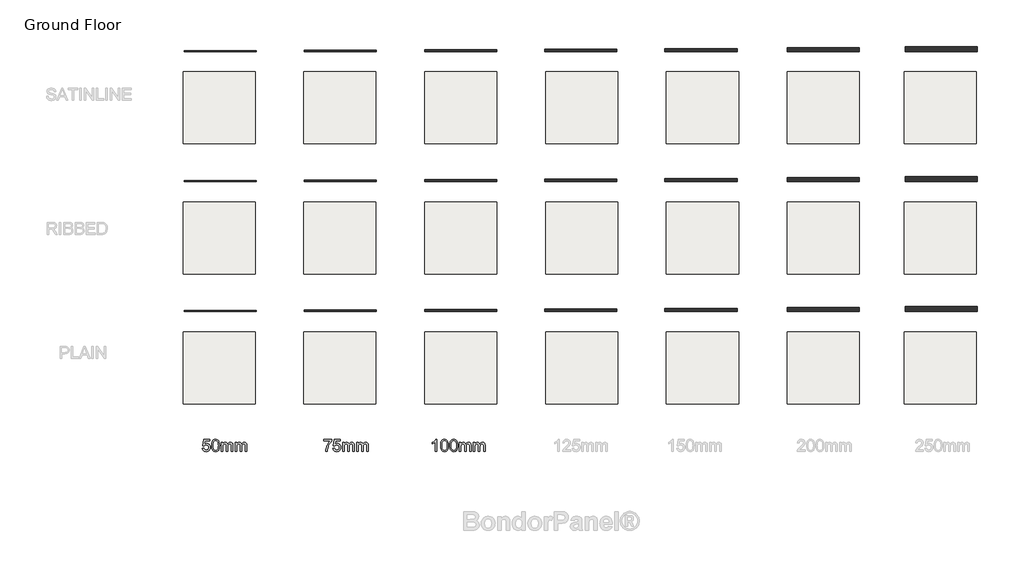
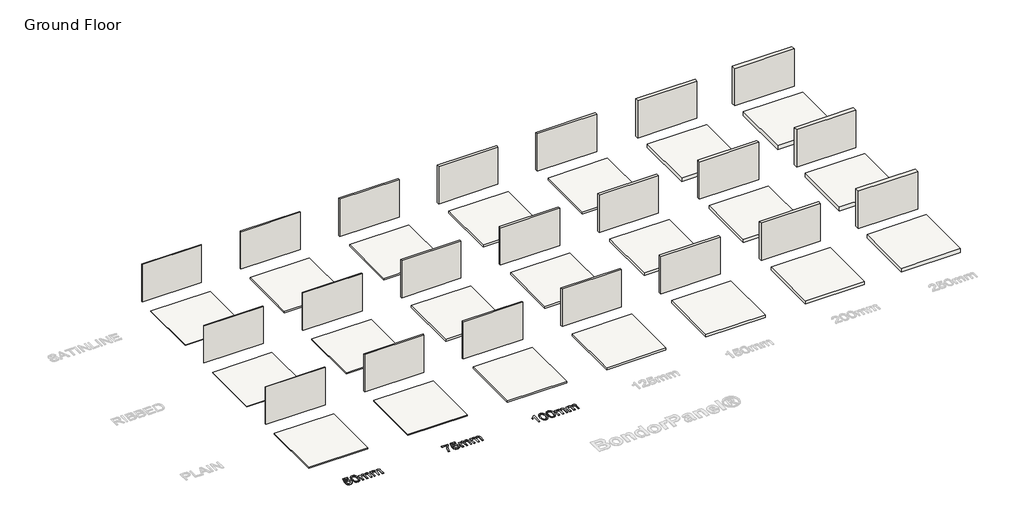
# One storey, part 1 of 3: 21 coverings, 21 walls, 3 proxies.
"""IFC4 building model written with IfcOpenShell, lengths in millimetres."""

from ifc_helpers import new_model, si_unit, origin, origin_with_axes, place, context, project, spatial, polyline, outline, extrude, element, save

model = new_model("IFC4")

# Units and contexts
model_context = context("Model", 3, world=origin())
ifc_project = project(units=[si_unit("LENGTHUNIT", "METRE", prefix="MILLI")], contexts=[model_context])

# Site, building, storey
site = spatial("IfcSite", under=ifc_project)
building = spatial("IfcBuilding", under=site)
storey = spatial("IfcBuildingStorey", under=building, Name="Ground Floor", Elevation=0.0)

# Proxies
placement = place(None, origin())
element("IfcBuildingElementProxy", 1, Name="600mm Arial", ObjectType="600mm Arial", at=placement, inside=storey, context=model_context, shape_type="SweptSolid", body=[
    extrude(outline(polyline([(-8304.9680038, -2325.4851257), (-8229.6257712, -2316.0673466), (-8223.9971767, -2340.2877775), (-8215.7934082, -2361.2984379), (-8205.0144657, -2379.099328), (-8191.6603493, -2393.6904476), (-8175.7586501, -2405.0534027), (-8157.3369592, -2413.1697993), (-8136.3952766, -2418.0396372), (-8112.9336023, -2419.6629165), (-8084.2388067, -2417.4050407), (-8058.9285255, -2410.6314135), (-8037.0027585, -2399.3420348), (-8018.461506, -2383.5369045), (-8003.718635, -2363.9977721), (-7993.1880129, -2341.5063866), (-7986.8696396, -2316.0627481), (-7984.7635152, -2287.6668566), (-7986.7362824, -2260.8298651), (-7992.654584, -2236.9727177), (-8002.51842, -2216.0954144), (-8016.3277904, -2198.1979554), (-8034.1286805, -2183.8413605), (-8055.9670754, -2173.5866499), (-8081.8429752, -2167.4338235), (-8111.75638, -2165.3828814), (-8148.3054562, -2168.6570312), (-8177.9015627, -2178.4794804), (-8201.5379809, -2193.525854), (-8220.2079921, -2212.4717768), (-8295.5502248, -2203.0539977), (-8229.6257712, -1892.2672882), (-7937.6746198, -1892.2672882), (-7937.6746198, -1967.6095208), (-8168.7045128, -1967.6095208), (-8200.9309756, -2133.597877), (-8174.3423044, -2114.5415897), (-8147.1098397, -2100.9299559), (-8119.2335815, -2092.7629756), (-8090.7135298, -2090.0406488), (-8054.0218993, -2093.4159661), (-8020.3193101, -2103.541918), (-7989.605762, -2120.4185045), (-7961.8812551, -2144.0457257), (-7938.9300172, -2172.9796446), (-7922.5362757, -2205.7763245), (-7912.7000309, -2242.4357653), (-7909.4212826, -2282.9579671), (-7912.3735356, -2321.9902468), (-7921.2302947, -2358.3001997), (-7935.9915597, -2391.8878258), (-7956.6573308, -2422.7531252), (-7987.9640886, -2454.3633857), (-8024.4947707, -2476.9421431), (-8066.2493772, -2490.4893976), (-8113.2279079, -2495.0051491), (-8152.1084363, -2492.1034798), (-8187.2273713, -2483.3984721), (-8218.5847128, -2468.890126), (-8246.180461, -2448.5784413), (-8269.140896, -2423.4750936), (-8286.5922982, -2394.5917585), (-8298.5346674, -2361.9284359), (-8304.9680038, -2325.4851257)])), origin_with_axes(), (0.0, 0.0, 1.0), 20.0),
    extrude(outline(polyline([(-7843.4968291, -2189.0744819), (-7837.9602051, -2092.5974287), (-7831.039425, -2051.6843523), (-7821.350333, -2015.6549094), (-7808.9343156, -1984.2147944), (-7793.8327597, -1957.0697016), (-7776.0456653, -1934.2196312), (-7755.5730322, -1915.6645831), (-7732.3458828, -1901.3079882), (-7706.295239, -1891.0532776), (-7677.4211009, -1884.9004512), (-7645.7234685, -1882.8495091), (-7599.2967607, -1887.7055514), (-7557.7260952, -1902.2736785), (-7522.9612467, -1925.983673), (-7496.9519896, -1958.2653181), (-7477.3070911, -1998.8427022), (-7461.6353181, -2047.4399138), (-7451.3714104, -2109.1521184), (-7447.9501079, -2189.0744819), (-7453.4315496, -2284.9997121), (-7460.2833518, -2325.7748328), (-7469.8758748, -2361.7582904), (-7482.1953231, -2393.212201), (-7497.2279011, -2420.3986805), (-7514.9736089, -2443.3177288), (-7535.4324463, -2461.9693459), (-7558.6871869, -2476.4225098), (-7584.8206042, -2486.7461983), (-7613.832698, -2492.9404114), (-7645.7234685, -2495.0051491), (-7687.2205575, -2491.4182996), (-7724.008757, -2480.6577513), (-7756.088067, -2462.723504), (-7783.4584875, -2437.6155578), (-7809.7252619, -2392.2281167), (-7828.4872437, -2335.675457), (-7839.7444327, -2267.9575787), (-7843.4968291, -2189.0744819)]), holes=[polyline([(-7768.1545965, -2188.9273291), (-7765.9473045, -2254.4241198), (-7759.3254286, -2307.4405138), (-7748.2889687, -2347.9765112), (-7732.8379249, -2376.0321118), (-7714.1495196, -2395.1205889), (-7693.400975, -2408.7552153), (-7670.5922913, -2416.9359912), (-7645.7234685, -2419.6629165), (-7620.8546456, -2416.9267941), (-7598.0459619, -2408.7184271), (-7577.2974174, -2395.0378154), (-7558.609012, -2375.884959), (-7543.1579682, -2347.7833731), (-7532.1215084, -2307.2565728), (-7525.4996324, -2254.3045582), (-7523.2923405, -2188.9273291), (-7525.426056, -2125.1641823), (-7531.8272028, -2073.0812888), (-7542.4957806, -2032.6786487), (-7557.4317896, -2003.9562619), (-7575.8074953, -1983.9342843), (-7596.7951631, -1969.6328718), (-7620.3947931, -1961.0520242), (-7646.6063853, -1958.1917417), (-7671.3464494, -1960.7117334), (-7693.768857, -1968.2717084), (-7713.8736081, -1980.8716667), (-7731.6607025, -1998.5116084), (-7747.6267811, -2029.781578), (-7759.031123, -2071.9408546), (-7765.8737281, -2124.9894383), (-7768.1545965, -2188.9273291)])]), origin_with_axes(), (0.0, 0.0, 1.0), 20.0),
    extrude(outline(polyline([(-7363.1900962, -2485.58737), (-7363.1900962, -2042.9517534), (-7287.8478636, -2042.9517534), (-7287.8478636, -2115.7923885), (-7265.1863327, -2082.333521), (-7236.0500786, -2056.1219288), (-7201.4323829, -2039.180963), (-7162.3265268, -2033.5339743), (-7120.4247676, -2039.2913276), (-7102.5916878, -2046.4880191), (-7086.8371414, -2056.5633872), (-7061.7475893, -2084.2097192), (-7045.3400523, -2121.0898892), (-7017.8776614, -2082.7841764), (-6986.5525095, -2055.422953), (-6951.3645967, -2039.006219), (-6912.3139229, -2033.5339743), (-6882.1521978, -2035.8102442), (-6855.6784897, -2042.6390537), (-6832.8927987, -2054.0204029), (-6813.7951246, -2069.9542919), (-6798.6981672, -2090.6246615), (-6787.9146262, -2116.2154528), (-6781.4445016, -2146.7266657), (-6779.2877934, -2182.1583004), (-6779.2877934, -2485.58737), (-6854.630026, -2485.58737), (-6854.630026, -2214.531916), (-6856.3774655, -2176.9527702), (-6861.619784, -2151.6240948), (-6871.4422332, -2134.2784587), (-6886.9300652, -2120.6484308), (-6906.8508753, -2111.8192629), (-6929.9722587, -2108.8762069), (-6951.32321, -2110.7616022), (-6970.788766, -2116.4177879), (-6988.3689269, -2125.844764), (-7004.0636925, -2139.0425306), (-7016.971752, -2156.3973637), (-7026.1917945, -2178.2955394), (-7031.72382, -2204.7370578), (-7033.5678285, -2235.7219189), (-7033.5678285, -2485.58737), (-7108.9100611, -2485.58737), (-7108.9100611, -2206.1442065), (-7113.2694628, -2163.5434714), (-7118.7187148, -2146.8232348), (-7126.3476677, -2133.1564186), (-7136.459824, -2122.533826), (-7149.3586865, -2114.9462599), (-7165.044255, -2110.3937202), (-7183.5165297, -2108.8762069), (-7212.5424192, -2112.9229089), (-7239.2874402, -2125.0630147), (-7261.3603599, -2145.0022189), (-7276.3699453, -2172.4462157), (-7284.978384, -2210.5220022), (-7287.8478636, -2262.3565753), (-7287.8478636, -2485.58737), (-7363.1900962, -2485.58737)])), origin_with_axes(), (0.0, 0.0, 1.0), 20.0),
    extrude(outline(polyline([(-6666.2744445, -2485.58737), (-6666.2744445, -2042.9517534), (-6590.9322119, -2042.9517534), (-6590.9322119, -2115.7923885), (-6568.270681, -2082.333521), (-6539.134427, -2056.1219288), (-6504.5167312, -2039.180963), (-6465.4108751, -2033.5339743), (-6423.5091159, -2039.2913276), (-6405.6760362, -2046.4880191), (-6389.9214897, -2056.5633872), (-6364.8319377, -2084.2097192), (-6348.4244007, -2121.0898892), (-6320.9620097, -2082.7841764), (-6289.6368579, -2055.422953), (-6254.448945, -2039.006219), (-6215.3982712, -2033.5339743), (-6185.2365461, -2035.8102442), (-6158.7628381, -2042.6390537), (-6135.977147, -2054.0204029), (-6116.8794729, -2069.9542919), (-6101.7825155, -2090.6246615), (-6090.9989746, -2116.2154528), (-6084.52885, -2146.7266657), (-6082.3721418, -2182.1583004), (-6082.3721418, -2485.58737), (-6157.7143744, -2485.58737), (-6157.7143744, -2214.531916), (-6159.4618139, -2176.9527702), (-6164.7041323, -2151.6240948), (-6174.5265816, -2134.2784587), (-6190.0144136, -2120.6484308), (-6209.9352236, -2111.8192629), (-6233.056607, -2108.8762069), (-6254.4075583, -2110.7616022), (-6273.8731144, -2116.4177879), (-6291.4532752, -2125.844764), (-6307.1480408, -2139.0425306), (-6320.0561003, -2156.3973637), (-6329.2761428, -2178.2955394), (-6334.8081683, -2204.7370578), (-6336.6521768, -2235.7219189), (-6336.6521768, -2485.58737), (-6411.9944094, -2485.58737), (-6411.9944094, -2206.1442065), (-6416.3538111, -2163.5434714), (-6421.8030631, -2146.8232348), (-6429.432016, -2133.1564186), (-6439.5441724, -2122.533826), (-6452.4430348, -2114.9462599), (-6468.1286034, -2110.3937202), (-6486.6008781, -2108.8762069), (-6515.6267675, -2112.9229089), (-6542.3717885, -2125.0630147), (-6564.4447082, -2145.0022189), (-6579.4542937, -2172.4462157), (-6588.0627323, -2210.5220022), (-6590.9322119, -2262.3565753), (-6590.9322119, -2485.58737), (-6666.2744445, -2485.58737)])), origin_with_axes(), (0.0, 0.0, 1.0), 20.0),
])
element("IfcBuildingElementProxy", 2, Name="600mm Arial", ObjectType="600mm Arial", at=placement, inside=storey, context=model_context, shape_type="SweptSolid", body=[
    extrude(outline(polyline([(-2245.6761452, -1967.6095208), (-2245.6761452, -1892.2672882), (-1850.129424, -1892.2672882), (-1850.129424, -1953.1885466), (-1906.5073397, -2024.5392596), (-1962.3334325, -2115.2773537), (-2011.5744375, -2217.125484), (-2031.4630579, -2269.1118085), (-2048.1970902, -2321.8063058), (-2066.1497315, -2400.1283825), (-2076.1561218, -2485.58737), (-2151.4983544, -2485.58737), (-2143.3497682, -2407.9274808), (-2121.55276, -2315.6258882), (-2105.6832504, -2266.260723), (-2086.695941, -2217.7876716), (-2064.5908316, -2170.2067341), (-2039.3679223, -2123.5179104), (-1984.1120466, -2038.2980462), (-1925.4716566, -1967.6095208), (-2245.6761452, -1967.6095208)])), origin_with_axes(), (0.0, 0.0, 1.0), 20.0),
    extrude(outline(polyline([(-1784.2049704, -2325.4851257), (-1708.8627378, -2316.0673466), (-1703.2341433, -2340.2877775), (-1695.0303748, -2361.2984379), (-1684.2514323, -2379.099328), (-1670.8973159, -2393.6904476), (-1654.9956167, -2405.0534027), (-1636.5739258, -2413.1697993), (-1615.6322432, -2418.0396372), (-1592.1705689, -2419.6629165), (-1563.4757733, -2417.4050407), (-1538.165492, -2410.6314135), (-1516.2397251, -2399.3420348), (-1497.6984726, -2383.5369045), (-1482.9556016, -2363.9977721), (-1472.4249795, -2341.5063866), (-1466.1066062, -2316.0627481), (-1464.0004818, -2287.6668566), (-1465.973249, -2260.8298651), (-1471.8915506, -2236.9727177), (-1481.7553866, -2216.0954144), (-1495.564757, -2198.1979554), (-1513.365647, -2183.8413605), (-1535.204042, -2173.5866499), (-1561.0799418, -2167.4338235), (-1590.9933466, -2165.3828814), (-1627.5424228, -2168.6570312), (-1657.1385293, -2178.4794804), (-1680.7749475, -2193.525854), (-1699.4449587, -2212.4717768), (-1774.7871913, -2203.0539977), (-1708.8627378, -1892.2672882), (-1416.9115864, -1892.2672882), (-1416.9115864, -1967.6095208), (-1647.9414794, -1967.6095208), (-1680.1679422, -2133.597877), (-1653.579271, -2114.5415897), (-1626.3468063, -2100.9299559), (-1598.4705481, -2092.7629756), (-1569.9504964, -2090.0406488), (-1533.2588659, -2093.4159661), (-1499.5562767, -2103.541918), (-1468.8427286, -2120.4185045), (-1441.1182217, -2144.0457257), (-1418.1669837, -2172.9796446), (-1401.7732423, -2205.7763245), (-1391.9369975, -2242.4357653), (-1388.6582492, -2282.9579671), (-1391.6105022, -2321.9902468), (-1400.4672612, -2358.3001997), (-1415.2285263, -2391.8878258), (-1435.8942974, -2422.7531252), (-1467.2010552, -2454.3633857), (-1503.7317373, -2476.9421431), (-1545.4863437, -2490.4893976), (-1592.4648745, -2495.0051491), (-1631.3454029, -2492.1034798), (-1666.4643379, -2483.3984721), (-1697.8216794, -2468.890126), (-1725.4174276, -2448.5784413), (-1748.3778626, -2423.4750936), (-1765.8292648, -2394.5917585), (-1777.771634, -2361.9284359), (-1784.2049704, -2325.4851257)])), origin_with_axes(), (0.0, 0.0, 1.0), 20.0),
    extrude(outline(polyline([(-1303.8982375, -2485.58737), (-1303.8982375, -2042.9517534), (-1228.5560049, -2042.9517534), (-1228.5560049, -2115.7923885), (-1205.894474, -2082.333521), (-1176.75822, -2056.1219288), (-1142.1405242, -2039.180963), (-1103.0346681, -2033.5339743), (-1061.1329089, -2039.2913276), (-1043.2998292, -2046.4880191), (-1027.5452827, -2056.5633872), (-1002.4557307, -2084.2097192), (-986.0481937, -2121.0898892), (-958.5858027, -2082.7841764), (-927.2606509, -2055.422953), (-892.072738, -2039.006219), (-853.0220642, -2033.5339743), (-822.8603391, -2035.8102442), (-796.3866311, -2042.6390537), (-773.60094, -2054.0204029), (-754.5032659, -2069.9542919), (-739.4063085, -2090.6246615), (-728.6227676, -2116.2154528), (-722.152643, -2146.7266657), (-719.9959348, -2182.1583004), (-719.9959348, -2485.58737), (-795.3381674, -2485.58737), (-795.3381674, -2214.531916), (-797.0856069, -2176.9527702), (-802.3279253, -2151.6240948), (-812.1503746, -2134.2784587), (-827.6382066, -2120.6484308), (-847.5590166, -2111.8192629), (-870.6804, -2108.8762069), (-892.0313513, -2110.7616022), (-911.4969074, -2116.4177879), (-929.0770682, -2125.844764), (-944.7718338, -2139.0425306), (-957.6798933, -2156.3973637), (-966.8999358, -2178.2955394), (-972.4319613, -2204.7370578), (-974.2759698, -2235.7219189), (-974.2759698, -2485.58737), (-1049.6182024, -2485.58737), (-1049.6182024, -2206.1442065), (-1053.9776041, -2163.5434714), (-1059.4268561, -2146.8232348), (-1067.055809, -2133.1564186), (-1077.1679654, -2122.533826), (-1090.0668278, -2114.9462599), (-1105.7523964, -2110.3937202), (-1124.2246711, -2108.8762069), (-1153.2505605, -2112.9229089), (-1179.9955815, -2125.0630147), (-1202.0685013, -2145.0022189), (-1217.0780867, -2172.4462157), (-1225.6865253, -2210.5220022), (-1228.5560049, -2262.3565753), (-1228.5560049, -2485.58737), (-1303.8982375, -2485.58737)])), origin_with_axes(), (0.0, 0.0, 1.0), 20.0),
    extrude(outline(polyline([(-606.9825859, -2485.58737), (-606.9825859, -2042.9517534), (-531.6403532, -2042.9517534), (-531.6403532, -2115.7923885), (-508.9788223, -2082.333521), (-479.8425683, -2056.1219288), (-445.2248726, -2039.180963), (-406.1190165, -2033.5339743), (-364.2172572, -2039.2913276), (-346.3841775, -2046.4880191), (-330.6296311, -2056.5633872), (-305.540079, -2084.2097192), (-289.132542, -2121.0898892), (-261.6701511, -2082.7841764), (-230.3449992, -2055.422953), (-195.1570864, -2039.006219), (-156.1064126, -2033.5339743), (-125.9446875, -2035.8102442), (-99.4709794, -2042.6390537), (-76.6852883, -2054.0204029), (-57.5876143, -2069.9542919), (-42.4906569, -2090.6246615), (-31.7071159, -2116.2154528), (-25.2369913, -2146.7266657), (-23.0802831, -2182.1583004), (-23.0802831, -2485.58737), (-98.4225157, -2485.58737), (-98.4225157, -2214.531916), (-100.1699552, -2176.9527702), (-105.4122736, -2151.6240948), (-115.2347229, -2134.2784587), (-130.7225549, -2120.6484308), (-150.6433649, -2111.8192629), (-173.7647483, -2108.8762069), (-195.1156996, -2110.7616022), (-214.5812557, -2116.4177879), (-232.1614165, -2125.844764), (-247.8561822, -2139.0425306), (-260.7642417, -2156.3973637), (-269.9842842, -2178.2955394), (-275.5163097, -2204.7370578), (-277.3603182, -2235.7219189), (-277.3603182, -2485.58737), (-352.7025508, -2485.58737), (-352.7025508, -2206.1442065), (-357.0619524, -2163.5434714), (-362.5112045, -2146.8232348), (-370.1401574, -2133.1564186), (-380.2523137, -2122.533826), (-393.1511762, -2114.9462599), (-408.8367447, -2110.3937202), (-427.3090194, -2108.8762069), (-456.3349088, -2112.9229089), (-483.0799299, -2125.0630147), (-505.1528496, -2145.0022189), (-520.162435, -2172.4462157), (-528.7708737, -2210.5220022), (-531.6403532, -2262.3565753), (-531.6403532, -2485.58737), (-606.9825859, -2485.58737)])), origin_with_axes(), (0.0, 0.0, 1.0), 20.0),
])
element("IfcBuildingElementProxy", 3, Name="600mm Arial", ObjectType="600mm Arial", at=placement, inside=storey, context=model_context, shape_type="SweptSolid", body=[
    extrude(outline(polyline([(3406.1216398, -2485.58737), (3330.7794071, -2485.58737), (3330.7794071, -2015.8756386), (3299.3254966, -2041.3146785), (3259.4103001, -2066.7169303), (3217.5085408, -2088.9186087), (3180.0949419, -2104.7559286), (3180.0949419, -2033.5339743), (3239.2687608, -2001.3442998), (3290.5331169, -1963.0477841), (3330.944954, -1922.3232472), (3357.5612164, -1882.8495091), (3406.1216398, -1882.8495091), (3406.1216398, -2485.58737)])), origin_with_axes(), (0.0, 0.0, 1.0), 20.0),
    extrude(outline(polyline([(3585.0594422, -2189.0744819), (3590.5960662, -2092.5974287), (3597.5168463, -2051.6843523), (3607.2059383, -2015.6549094), (3619.6219557, -1984.2147944), (3634.7235116, -1957.0697016), (3652.510606, -1934.2196312), (3672.9832391, -1915.6645831), (3696.2103885, -1901.3079882), (3722.2610323, -1891.0532776), (3751.1351704, -1884.9004512), (3782.8328028, -1882.8495091), (3829.2595106, -1887.7055514), (3870.8301761, -1902.2736785), (3905.5950246, -1925.983673), (3931.6042817, -1958.2653181), (3951.2491802, -1998.8427022), (3966.9209532, -2047.4399138), (3977.1848609, -2109.1521184), (3980.6061634, -2189.0744819), (3975.1247217, -2284.9997121), (3968.2729195, -2325.7748328), (3958.6803965, -2361.7582904), (3946.3609482, -2393.212201), (3931.3283702, -2420.3986805), (3913.5826624, -2443.3177288), (3893.123825, -2461.9693459), (3869.8690843, -2476.4225098), (3843.7356671, -2486.7461983), (3814.7235733, -2492.9404114), (3782.8328028, -2495.0051491), (3741.3357138, -2491.4182996), (3704.5475142, -2480.6577513), (3672.4682043, -2462.723504), (3645.0977838, -2437.6155578), (3618.8310094, -2392.2281167), (3600.0690276, -2335.675457), (3588.8118386, -2267.9575787), (3585.0594422, -2189.0744819)]), holes=[polyline([(3660.4016748, -2188.9273291), (3662.6089668, -2254.4241198), (3669.2308427, -2307.4405138), (3680.2673026, -2347.9765112), (3695.7183464, -2376.0321118), (3714.4067517, -2395.1205889), (3735.1552962, -2408.7552153), (3757.9639799, -2416.9359912), (3782.8328028, -2419.6629165), (3807.7016257, -2416.9267941), (3830.5103094, -2408.7184271), (3851.2588539, -2395.0378154), (3869.9472593, -2375.884959), (3885.3983031, -2347.7833731), (3896.4347629, -2307.2565728), (3903.0566388, -2254.3045582), (3905.2639308, -2188.9273291), (3903.1302152, -2125.1641823), (3896.7290685, -2073.0812888), (3886.0604907, -2032.6786487), (3871.1244817, -2003.9562619), (3852.748776, -1983.9342843), (3831.7611082, -1969.6328718), (3808.1614782, -1961.0520242), (3781.949886, -1958.1917417), (3757.2098218, -1960.7117334), (3734.7874142, -1968.2717084), (3714.6826632, -1980.8716667), (3696.8955687, -1998.5116084), (3680.9294901, -2029.781578), (3669.5251483, -2071.9408546), (3662.6825432, -2124.9894383), (3660.4016748, -2188.9273291)])]), origin_with_axes(), (0.0, 0.0, 1.0), 20.0),
    extrude(outline(polyline([(4046.530617, -2189.0744819), (4052.067241, -2092.5974287), (4058.988021, -2051.6843523), (4068.6771131, -2015.6549094), (4081.0931304, -1984.2147944), (4096.1946863, -1957.0697016), (4113.9817808, -1934.2196312), (4134.4544138, -1915.6645831), (4157.6815633, -1901.3079882), (4183.7322071, -1891.0532776), (4212.6063452, -1884.9004512), (4244.3039776, -1882.8495091), (4290.7306854, -1887.7055514), (4332.3013508, -1902.2736785), (4367.0661994, -1925.983673), (4393.0754564, -1958.2653181), (4412.720355, -1998.8427022), (4428.392128, -2047.4399138), (4438.6560356, -2109.1521184), (4442.0773382, -2189.0744819), (4436.5958964, -2284.9997121), (4429.7440943, -2325.7748328), (4420.1515713, -2361.7582904), (4407.8321229, -2393.212201), (4392.7995449, -2420.3986805), (4375.0538372, -2443.3177288), (4354.5949997, -2461.9693459), (4331.3402591, -2476.4225098), (4305.2068419, -2486.7461983), (4276.194748, -2492.9404114), (4244.3039776, -2495.0051491), (4202.8068885, -2491.4182996), (4166.018689, -2480.6577513), (4133.939379, -2462.723504), (4106.5689586, -2437.6155578), (4080.3021841, -2392.2281167), (4061.5402024, -2335.675457), (4050.2830133, -2267.9575787), (4046.530617, -2189.0744819)]), holes=[polyline([(4121.8728496, -2188.9273291), (4124.0801415, -2254.4241198), (4130.7020175, -2307.4405138), (4141.7384773, -2347.9765112), (4157.1895211, -2376.0321118), (4175.8779265, -2395.1205889), (4196.626471, -2408.7552153), (4219.4351547, -2416.9359912), (4244.3039776, -2419.6629165), (4269.1728004, -2416.9267941), (4291.9814841, -2408.7184271), (4312.7300287, -2395.0378154), (4331.418434, -2375.884959), (4346.8694778, -2347.7833731), (4357.9059377, -2307.2565728), (4364.5278136, -2254.3045582), (4366.7351056, -2188.9273291), (4364.60139, -2125.1641823), (4358.2002433, -2073.0812888), (4347.5316654, -2032.6786487), (4332.5956564, -2003.9562619), (4314.2199507, -1983.9342843), (4293.2322829, -1969.6328718), (4269.6326529, -1961.0520242), (4243.4210608, -1958.1917417), (4218.6809966, -1960.7117334), (4196.258589, -1968.2717084), (4176.153838, -1980.8716667), (4158.3667435, -1998.5116084), (4142.4006649, -2029.781578), (4130.996323, -2071.9408546), (4124.1537179, -2124.9894383), (4121.8728496, -2188.9273291)])]), origin_with_axes(), (0.0, 0.0, 1.0), 20.0),
    extrude(outline(polyline([(4526.8373499, -2485.58737), (4526.8373499, -2042.9517534), (4602.1795825, -2042.9517534), (4602.1795825, -2115.7923885), (4624.8411134, -2082.333521), (4653.9773674, -2056.1219288), (4688.5950631, -2039.180963), (4727.7009192, -2033.5339743), (4769.6026785, -2039.2913276), (4787.4357582, -2046.4880191), (4803.1903046, -2056.5633872), (4828.2798567, -2084.2097192), (4844.6873937, -2121.0898892), (4872.1497846, -2082.7841764), (4903.4749365, -2055.422953), (4938.6628494, -2039.006219), (4977.7135231, -2033.5339743), (5007.8752482, -2035.8102442), (5034.3489563, -2042.6390537), (5057.1346474, -2054.0204029), (5076.2323215, -2069.9542919), (5091.3292788, -2090.6246615), (5102.1128198, -2116.2154528), (5108.5829444, -2146.7266657), (5110.7396526, -2182.1583004), (5110.7396526, -2485.58737), (5035.39742, -2485.58737), (5035.39742, -2214.531916), (5033.6499805, -2176.9527702), (5028.4076621, -2151.6240948), (5018.5852128, -2134.2784587), (5003.0973808, -2120.6484308), (4983.1765708, -2111.8192629), (4960.0551874, -2108.8762069), (4938.7042361, -2110.7616022), (4919.23868, -2116.4177879), (4901.6585192, -2125.844764), (4885.9637536, -2139.0425306), (4873.055694, -2156.3973637), (4863.8356515, -2178.2955394), (4858.303626, -2204.7370578), (4856.4596175, -2235.7219189), (4856.4596175, -2485.58737), (4781.1173849, -2485.58737), (4781.1173849, -2206.1442065), (4776.7579833, -2163.5434714), (4771.3087312, -2146.8232348), (4763.6797784, -2133.1564186), (4753.567622, -2122.533826), (4740.6687596, -2114.9462599), (4724.983191, -2110.3937202), (4706.5109163, -2108.8762069), (4677.4850269, -2112.9229089), (4650.7400058, -2125.0630147), (4628.6670861, -2145.0022189), (4613.6575007, -2172.4462157), (4605.049062, -2210.5220022), (4602.1795825, -2262.3565753), (4602.1795825, -2485.58737), (4526.8373499, -2485.58737)])), origin_with_axes(), (0.0, 0.0, 1.0), 20.0),
    extrude(outline(polyline([(5223.7530015, -2485.58737), (5223.7530015, -2042.9517534), (5299.0952341, -2042.9517534), (5299.0952341, -2115.7923885), (5321.756765, -2082.333521), (5350.8930191, -2056.1219288), (5385.5107148, -2039.180963), (5424.6165709, -2033.5339743), (5466.5183301, -2039.2913276), (5484.3514099, -2046.4880191), (5500.1059563, -2056.5633872), (5525.1955084, -2084.2097192), (5541.6030454, -2121.0898892), (5569.0654363, -2082.7841764), (5600.3905882, -2055.422953), (5635.578501, -2039.006219), (5674.6291748, -2033.5339743), (5704.7908999, -2035.8102442), (5731.264608, -2042.6390537), (5754.050299, -2054.0204029), (5773.1479731, -2069.9542919), (5788.2449305, -2090.6246615), (5799.0284715, -2116.2154528), (5805.4985961, -2146.7266657), (5807.6553043, -2182.1583004), (5807.6553043, -2485.58737), (5732.3130717, -2485.58737), (5732.3130717, -2214.531916), (5730.5656322, -2176.9527702), (5725.3233137, -2151.6240948), (5715.5008645, -2134.2784587), (5700.0130325, -2120.6484308), (5680.0922224, -2111.8192629), (5656.970839, -2108.8762069), (5635.6198877, -2110.7616022), (5616.1543317, -2116.4177879), (5598.5741708, -2125.844764), (5582.8794052, -2139.0425306), (5569.9713457, -2156.3973637), (5560.7513032, -2178.2955394), (5555.2192777, -2204.7370578), (5553.3752692, -2235.7219189), (5553.3752692, -2485.58737), (5478.0330366, -2485.58737), (5478.0330366, -2206.1442065), (5473.6736349, -2163.5434714), (5468.2243829, -2146.8232348), (5460.59543, -2133.1564186), (5450.4832737, -2122.533826), (5437.5844112, -2114.9462599), (5421.8988426, -2110.3937202), (5403.426568, -2108.8762069), (5374.4006785, -2112.9229089), (5347.6556575, -2125.0630147), (5325.5827378, -2145.0022189), (5310.5731524, -2172.4462157), (5301.9647137, -2210.5220022), (5299.0952341, -2262.3565753), (5299.0952341, -2485.58737), (5223.7530015, -2485.58737)])), origin_with_axes(), (0.0, 0.0, 1.0), 20.0),
])

# Coverings
element("IfcCovering", 4, ObjectType="InsulatedPanels_Bondor_BondorPanel_50mm_Plain_Surfmist", at=placement, inside=storey, context=model_context, shape_type="SweptSolid", body=[
    extrude(outline(polyline([(-5670.6275568, 3485.0220357), (-5670.6275568, -114.9779643), (-9270.6275568, -114.9779643), (-9270.6275568, 3485.0220357), (-5670.6275568, 3485.0220357)])), origin_with_axes(), (0.0, 0.0, 1.0), 50.0),
])
element("IfcCovering", 5, ObjectType="InsulatedPanels_Bondor_BondorPanel_75mm_Plain_Surfmist", at=placement, inside=storey, context=model_context, shape_type="SweptSolid", body=[
    extrude(outline(polyline([(362.7057765, 3485.0220357), (362.7057765, -114.9779643), (-3237.2942235, -114.9779643), (-3237.2942235, 3485.0220357), (362.7057765, 3485.0220357)])), origin_with_axes(), (0.0, 0.0, 1.0), 75.0),
])
element("IfcCovering", 6, ObjectType="InsulatedPanels_Bondor_BondorPanel_100mm_Plain_Surfmist", at=placement, inside=storey, context=model_context, shape_type="SweptSolid", body=[
    extrude(outline(polyline([(6396.0391098, 3485.0220357), (6396.0391098, -114.9779643), (2796.0391098, -114.9779643), (2796.0391098, 3485.0220357), (6396.0391098, 3485.0220357)])), origin_with_axes(), (0.0, 0.0, 1.0), 100.0),
])
element("IfcCovering", 7, ObjectType="InsulatedPanels_Bondor_BondorPanel_125mm_Plain_Surfmist", at=placement, inside=storey, context=model_context, shape_type="SweptSolid", body=[
    extrude(outline(polyline([(12429.3724432, 3485.0220357), (12429.3724432, -114.9779643), (8829.3724432, -114.9779643), (8829.3724432, 3485.0220357), (12429.3724432, 3485.0220357)])), origin_with_axes(), (0.0, 0.0, 1.0), 125.0),
])
element("IfcCovering", 8, ObjectType="InsulatedPanels_Bondor_BondorPanel_150mm_Plain_Surfmist", at=placement, inside=storey, context=model_context, shape_type="SweptSolid", body=[
    extrude(outline(polyline([(18462.7057765, 3485.0220357), (18462.7057765, -114.9779643), (14862.7057765, -114.9779643), (14862.7057765, 3485.0220357), (18462.7057765, 3485.0220357)])), origin_with_axes(), (0.0, 0.0, 1.0), 150.0),
])
element("IfcCovering", 9, ObjectType="InsulatedPanels_Bondor_BondorPanel_200mm_Plain_Surfmist", at=placement, inside=storey, context=model_context, shape_type="SweptSolid", body=[
    extrude(outline(polyline([(24496.0391098, 3485.0220357), (24496.0391098, -114.9779643), (20896.0391098, -114.9779643), (20896.0391098, 3485.0220357), (24496.0391098, 3485.0220357)])), origin_with_axes(), (0.0, 0.0, 1.0), 200.0),
])
element("IfcCovering", 10, ObjectType="InsulatedPanels_Bondor_BondorPanel_250mm_Plain_Surfmist", at=placement, inside=storey, context=model_context, shape_type="SweptSolid", body=[
    extrude(outline(polyline([(30329.3724432, 3485.0220357), (30329.3724432, -114.9779643), (26729.3724432, -114.9779643), (26729.3724432, 3485.0220357), (30329.3724432, 3485.0220357)])), origin_with_axes(), (0.0, 0.0, 1.0), 250.0),
])
element("IfcCovering", 11, ObjectType="InsulatedPanels_Bondor_BondorPanel_50mm_Ribbed_Surfmist", at=placement, inside=storey, context=model_context, shape_type="SweptSolid", body=[
    extrude(outline(polyline([(-5670.6275568, 9985.0220357), (-5670.6275568, 6385.0220357), (-9270.6275568, 6385.0220357), (-9270.6275568, 9985.0220357), (-5670.6275568, 9985.0220357)])), origin_with_axes(), (0.0, 0.0, 1.0), 50.0),
])
element("IfcCovering", 12, ObjectType="InsulatedPanels_Bondor_BondorPanel_75mm_Ribbed_Surfmist", at=placement, inside=storey, context=model_context, shape_type="SweptSolid", body=[
    extrude(outline(polyline([(362.7057765, 9985.0220357), (362.7057765, 6385.0220357), (-3237.2942235, 6385.0220357), (-3237.2942235, 9985.0220357), (362.7057765, 9985.0220357)])), origin_with_axes(), (0.0, 0.0, 1.0), 75.0),
])
element("IfcCovering", 13, ObjectType="InsulatedPanels_Bondor_BondorPanel_100mm_Ribbed_Surfmist", at=placement, inside=storey, context=model_context, shape_type="SweptSolid", body=[
    extrude(outline(polyline([(6396.0391098, 9985.0220357), (6396.0391098, 6385.0220357), (2796.0391098, 6385.0220357), (2796.0391098, 9985.0220357), (6396.0391098, 9985.0220357)])), origin_with_axes(), (0.0, 0.0, 1.0), 100.0),
])
element("IfcCovering", 14, ObjectType="InsulatedPanels_Bondor_BondorPanel_125mm_Ribbed_Surfmist", at=placement, inside=storey, context=model_context, shape_type="SweptSolid", body=[
    extrude(outline(polyline([(12429.3724432, 9985.0220357), (12429.3724432, 6385.0220357), (8829.3724432, 6385.0220357), (8829.3724432, 9985.0220357), (12429.3724432, 9985.0220357)])), origin_with_axes(), (0.0, 0.0, 1.0), 125.0),
])
element("IfcCovering", 15, ObjectType="InsulatedPanels_Bondor_BondorPanel_150mm_Ribbed_Surfmist", at=placement, inside=storey, context=model_context, shape_type="SweptSolid", body=[
    extrude(outline(polyline([(18462.7057765, 9985.0220357), (18462.7057765, 6385.0220357), (14862.7057765, 6385.0220357), (14862.7057765, 9985.0220357), (18462.7057765, 9985.0220357)])), origin_with_axes(), (0.0, 0.0, 1.0), 150.0),
])
element("IfcCovering", 16, ObjectType="InsulatedPanels_Bondor_BondorPanel_200mm_Ribbed_Surfmist", at=placement, inside=storey, context=model_context, shape_type="SweptSolid", body=[
    extrude(outline(polyline([(24496.0391098, 9985.0220357), (24496.0391098, 6385.0220357), (20896.0391098, 6385.0220357), (20896.0391098, 9985.0220357), (24496.0391098, 9985.0220357)])), origin_with_axes(), (0.0, 0.0, 1.0), 200.0),
])
element("IfcCovering", 17, ObjectType="InsulatedPanels_Bondor_BondorPanel_250mm_Ribbed_Surfmist", at=placement, inside=storey, context=model_context, shape_type="SweptSolid", body=[
    extrude(outline(polyline([(30329.3724432, 9985.0220357), (30329.3724432, 6385.0220357), (26729.3724432, 6385.0220357), (26729.3724432, 9985.0220357), (30329.3724432, 9985.0220357)])), origin_with_axes(), (0.0, 0.0, 1.0), 250.0),
])
element("IfcCovering", 18, ObjectType="InsulatedPanels_Bondor_BondorPanel_50mm_Satinline_Surfmist", at=placement, inside=storey, context=model_context, shape_type="SweptSolid", body=[
    extrude(outline(polyline([(-5670.6275568, 16485.0220357), (-5670.6275568, 12885.0220357), (-9270.6275568, 12885.0220357), (-9270.6275568, 16485.0220357), (-5670.6275568, 16485.0220357)])), origin_with_axes(), (0.0, 0.0, 1.0), 50.0),
])
element("IfcCovering", 19, ObjectType="InsulatedPanels_Bondor_BondorPanel_75mm_Satinline_Surfmist", at=placement, inside=storey, context=model_context, shape_type="SweptSolid", body=[
    extrude(outline(polyline([(362.7057765, 16485.0220357), (362.7057765, 12885.0220357), (-3237.2942235, 12885.0220357), (-3237.2942235, 16485.0220357), (362.7057765, 16485.0220357)])), origin_with_axes(), (0.0, 0.0, 1.0), 75.0),
])
element("IfcCovering", 20, ObjectType="InsulatedPanels_Bondor_BondorPanel_100mm_Satinline_Surfmist", at=placement, inside=storey, context=model_context, shape_type="SweptSolid", body=[
    extrude(outline(polyline([(6396.0391098, 16485.0220357), (6396.0391098, 12885.0220357), (2796.0391098, 12885.0220357), (2796.0391098, 16485.0220357), (6396.0391098, 16485.0220357)])), origin_with_axes(), (0.0, 0.0, 1.0), 100.0),
])
element("IfcCovering", 21, ObjectType="InsulatedPanels_Bondor_BondorPanel_125mm_Satinline_Surfmist", at=placement, inside=storey, context=model_context, shape_type="SweptSolid", body=[
    extrude(outline(polyline([(12429.3724432, 16485.0220357), (12429.3724432, 12885.0220357), (8829.3724432, 12885.0220357), (8829.3724432, 16485.0220357), (12429.3724432, 16485.0220357)])), origin_with_axes(), (0.0, 0.0, 1.0), 125.0),
])
element("IfcCovering", 22, ObjectType="InsulatedPanels_Bondor_BondorPanel_150mm_Satinline_Surfmist", at=placement, inside=storey, context=model_context, shape_type="SweptSolid", body=[
    extrude(outline(polyline([(18462.7057765, 16485.0220357), (18462.7057765, 12885.0220357), (14862.7057765, 12885.0220357), (14862.7057765, 16485.0220357), (18462.7057765, 16485.0220357)])), origin_with_axes(), (0.0, 0.0, 1.0), 150.0),
])
element("IfcCovering", 23, ObjectType="InsulatedPanels_Bondor_BondorPanel_200mm_Satinline_Surfmist", at=placement, inside=storey, context=model_context, shape_type="SweptSolid", body=[
    extrude(outline(polyline([(24496.0391098, 16485.0220357), (24496.0391098, 12885.0220357), (20896.0391098, 12885.0220357), (20896.0391098, 16485.0220357), (24496.0391098, 16485.0220357)])), origin_with_axes(), (0.0, 0.0, 1.0), 200.0),
])
element("IfcCovering", 24, ObjectType="InsulatedPanels_Bondor_BondorPanel_250mm_Satinline_Surfmist", at=placement, inside=storey, context=model_context, shape_type="SweptSolid", body=[
    extrude(outline(polyline([(30329.3724432, 16485.0220357), (30329.3724432, 12885.0220357), (26729.3724432, 12885.0220357), (26729.3724432, 16485.0220357), (30329.3724432, 16485.0220357)])), origin_with_axes(), (0.0, 0.0, 1.0), 250.0),
])

# Walls
element("IfcWall", 25, ObjectType="InsulatedPanels_Bondor_BondorPanel_Vertical_50mm_Plain_Surfmist", at=placement, inside=storey, context=model_context, shape_type="SweptSolid", body=[
    extrude(outline(polyline([(-5615.3096748, 4494.5608175), (-9215.3096748, 4494.5608175), (-9215.3096748, 4544.5608175), (-5615.3096748, 4544.5608175), (-5615.3096748, 4494.5608175)])), origin_with_axes(), (0.0, 0.0, 1.0), 2400.0),
])
element("IfcWall", 26, ObjectType="InsulatedPanels_Bondor_BondorPanel_Vertical_75mm_Plain_Surfmist", at=placement, inside=storey, context=model_context, shape_type="SweptSolid", body=[
    extrude(outline(polyline([(384.6903252, 4494.5608175), (-3215.3096748, 4494.5608175), (-3215.3096748, 4569.5608175), (384.6903252, 4569.5608175), (384.6903252, 4494.5608175)])), origin_with_axes(), (0.0, 0.0, 1.0), 2400.0),
])
element("IfcWall", 27, ObjectType="InsulatedPanels_Bondor_BondorPanel_Vertical_100mm_Plain_Surfmist", at=placement, inside=storey, context=model_context, shape_type="SweptSolid", body=[
    extrude(outline(polyline([(6384.6903252, 4494.5608175), (2784.6903252, 4494.5608175), (2784.6903252, 4594.5608175), (6384.6903252, 4594.5608175), (6384.6903252, 4494.5608175)])), origin_with_axes(), (0.0, 0.0, 1.0), 2400.0),
])
element("IfcWall", 28, ObjectType="InsulatedPanels_Bondor_BondorPanel_Vertical_125mm_Plain_Surfmist", at=placement, inside=storey, context=model_context, shape_type="SweptSolid", body=[
    extrude(outline(polyline([(12384.6903252, 4494.5608175), (8784.6903252, 4494.5608175), (8784.6903252, 4619.5608175), (12384.6903252, 4619.5608175), (12384.6903252, 4494.5608175)])), origin_with_axes(), (0.0, 0.0, 1.0), 2400.0),
])
element("IfcWall", 29, ObjectType="InsulatedPanels_Bondor_BondorPanel_Vertical_150mm_Plain_Surfmist", at=placement, inside=storey, context=model_context, shape_type="SweptSolid", body=[
    extrude(outline(polyline([(18384.6903252, 4494.5608175), (14784.6903252, 4494.5608175), (14784.6903252, 4644.5608175), (18384.6903252, 4644.5608175), (18384.6903252, 4494.5608175)])), origin_with_axes(), (0.0, 0.0, 1.0), 2400.0),
])
element("IfcWall", 30, ObjectType="InsulatedPanels_Bondor_BondorPanel_Vertical_200mm_Plain_Surfmist", at=placement, inside=storey, context=model_context, shape_type="SweptSolid", body=[
    extrude(outline(polyline([(24484.6903252, 4494.5608175), (20884.6903252, 4494.5608175), (20884.6903252, 4694.5608175), (24484.6903252, 4694.5608175), (24484.6903252, 4494.5608175)])), origin_with_axes(), (0.0, 0.0, 1.0), 2400.0),
])
element("IfcWall", 31, ObjectType="InsulatedPanels_Bondor_BondorPanel_Vertical_250mm_Plain_Surfmist", at=placement, inside=storey, context=model_context, shape_type="SweptSolid", body=[
    extrude(outline(polyline([(30384.6903252, 4494.5608175), (26784.6903252, 4494.5608175), (26784.6903252, 4744.5608175), (30384.6903252, 4744.5608175), (30384.6903252, 4494.5608175)])), origin_with_axes(), (0.0, 0.0, 1.0), 2400.0),
])
element("IfcWall", 32, ObjectType="InsulatedPanels_Bondor_BondorPanel_Vertical_50mm_Ribbed_Surfmist", at=placement, inside=storey, context=model_context, shape_type="SweptSolid", body=[
    extrude(outline(polyline([(-5615.3096748, 10994.5608175), (-9215.3096748, 10994.5608175), (-9215.3096748, 11044.5608175), (-5615.3096748, 11044.5608175), (-5615.3096748, 10994.5608175)])), origin_with_axes(), (0.0, 0.0, 1.0), 2400.0),
])
element("IfcWall", 33, ObjectType="InsulatedPanels_Bondor_BondorPanel_Vertical_75mm_Ribbed_Surfmist", at=placement, inside=storey, context=model_context, shape_type="SweptSolid", body=[
    extrude(outline(polyline([(384.6903252, 10994.5608175), (-3215.3096748, 10994.5608175), (-3215.3096748, 11069.5608175), (384.6903252, 11069.5608175), (384.6903252, 10994.5608175)])), origin_with_axes(), (0.0, 0.0, 1.0), 2400.0),
])
element("IfcWall", 34, ObjectType="InsulatedPanels_Bondor_BondorPanel_Vertical_100mm_Ribbed_Surfmist", at=placement, inside=storey, context=model_context, shape_type="SweptSolid", body=[
    extrude(outline(polyline([(6384.6903252, 10994.5608175), (2784.6903252, 10994.5608175), (2784.6903252, 11094.5608175), (6384.6903252, 11094.5608175), (6384.6903252, 10994.5608175)])), origin_with_axes(), (0.0, 0.0, 1.0), 2400.0),
])
element("IfcWall", 35, ObjectType="InsulatedPanels_Bondor_BondorPanel_Vertical_125mm_Ribbed_Surfmist", at=placement, inside=storey, context=model_context, shape_type="SweptSolid", body=[
    extrude(outline(polyline([(12384.6903252, 10994.5608175), (8784.6903252, 10994.5608175), (8784.6903252, 11119.5608175), (12384.6903252, 11119.5608175), (12384.6903252, 10994.5608175)])), origin_with_axes(), (0.0, 0.0, 1.0), 2400.0),
])
element("IfcWall", 36, ObjectType="InsulatedPanels_Bondor_BondorPanel_Vertical_150mm_Ribbed_Surfmist", at=placement, inside=storey, context=model_context, shape_type="SweptSolid", body=[
    extrude(outline(polyline([(18384.6903252, 10994.5608175), (14784.6903252, 10994.5608175), (14784.6903252, 11144.5608175), (18384.6903252, 11144.5608175), (18384.6903252, 10994.5608175)])), origin_with_axes(), (0.0, 0.0, 1.0), 2400.0),
])
element("IfcWall", 37, ObjectType="InsulatedPanels_Bondor_BondorPanel_Vertical_200mm_Ribbed_Surfmist", at=placement, inside=storey, context=model_context, shape_type="SweptSolid", body=[
    extrude(outline(polyline([(24484.6903252, 10994.5608175), (20884.6903252, 10994.5608175), (20884.6903252, 11194.5608175), (24484.6903252, 11194.5608175), (24484.6903252, 10994.5608175)])), origin_with_axes(), (0.0, 0.0, 1.0), 2400.0),
])
element("IfcWall", 38, ObjectType="InsulatedPanels_Bondor_BondorPanel_Vertical_250mm_Ribbed_Surfmist", at=placement, inside=storey, context=model_context, shape_type="SweptSolid", body=[
    extrude(outline(polyline([(30384.6903252, 10994.5608175), (26784.6903252, 10994.5608175), (26784.6903252, 11244.5608175), (30384.6903252, 11244.5608175), (30384.6903252, 10994.5608175)])), origin_with_axes(), (0.0, 0.0, 1.0), 2400.0),
])
element("IfcWall", 39, ObjectType="InsulatedPanels_Bondor_BondorPanel_Vertical_50mm_Satinline_Surfmist", at=placement, inside=storey, context=model_context, shape_type="SweptSolid", body=[
    extrude(outline(polyline([(-5615.3096748, 17494.5608175), (-9215.3096748, 17494.5608175), (-9215.3096748, 17544.5608175), (-5615.3096748, 17544.5608175), (-5615.3096748, 17494.5608175)])), origin_with_axes(), (0.0, 0.0, 1.0), 2400.0),
])
element("IfcWall", 40, ObjectType="InsulatedPanels_Bondor_BondorPanel_Vertical_75mm_Satinline_Surfmist", at=placement, inside=storey, context=model_context, shape_type="SweptSolid", body=[
    extrude(outline(polyline([(384.6903252, 17494.5608175), (-3215.3096748, 17494.5608175), (-3215.3096748, 17569.5608175), (384.6903252, 17569.5608175), (384.6903252, 17494.5608175)])), origin_with_axes(), (0.0, 0.0, 1.0), 2400.0),
])
element("IfcWall", 41, ObjectType="InsulatedPanels_Bondor_BondorPanel_Vertical_100mm_Satinline_Surfmist", at=placement, inside=storey, context=model_context, shape_type="SweptSolid", body=[
    extrude(outline(polyline([(6384.6903252, 17494.5608175), (2784.6903252, 17494.5608175), (2784.6903252, 17594.5608175), (6384.6903252, 17594.5608175), (6384.6903252, 17494.5608175)])), origin_with_axes(), (0.0, 0.0, 1.0), 2400.0),
])
element("IfcWall", 42, ObjectType="InsulatedPanels_Bondor_BondorPanel_Vertical_125mm_Satinline_Surfmist", at=placement, inside=storey, context=model_context, shape_type="SweptSolid", body=[
    extrude(outline(polyline([(12384.6903252, 17494.5608175), (8784.6903252, 17494.5608175), (8784.6903252, 17619.5608175), (12384.6903252, 17619.5608175), (12384.6903252, 17494.5608175)])), origin_with_axes(), (0.0, 0.0, 1.0), 2400.0),
])
element("IfcWall", 43, ObjectType="InsulatedPanels_Bondor_BondorPanel_Vertical_150mm_Satinline_Surfmist", at=placement, inside=storey, context=model_context, shape_type="SweptSolid", body=[
    extrude(outline(polyline([(18384.6903252, 17494.5608175), (14784.6903252, 17494.5608175), (14784.6903252, 17644.5608175), (18384.6903252, 17644.5608175), (18384.6903252, 17494.5608175)])), origin_with_axes(), (0.0, 0.0, 1.0), 2400.0),
])
element("IfcWall", 44, ObjectType="InsulatedPanels_Bondor_BondorPanel_Vertical_200mm_Satinline_Surfmist", at=placement, inside=storey, context=model_context, shape_type="SweptSolid", body=[
    extrude(outline(polyline([(24484.6903252, 17494.5608175), (20884.6903252, 17494.5608175), (20884.6903252, 17694.5608175), (24484.6903252, 17694.5608175), (24484.6903252, 17494.5608175)])), origin_with_axes(), (0.0, 0.0, 1.0), 2400.0),
])
element("IfcWall", 45, ObjectType="InsulatedPanels_Bondor_BondorPanel_Vertical_250mm_Satinline_Surfmist", at=placement, inside=storey, context=model_context, shape_type="SweptSolid", body=[
    extrude(outline(polyline([(30384.6903252, 17494.5608175), (26784.6903252, 17494.5608175), (26784.6903252, 17744.5608175), (30384.6903252, 17744.5608175), (30384.6903252, 17494.5608175)])), origin_with_axes(), (0.0, 0.0, 1.0), 2400.0),
])

save(model, "model.ifc")
